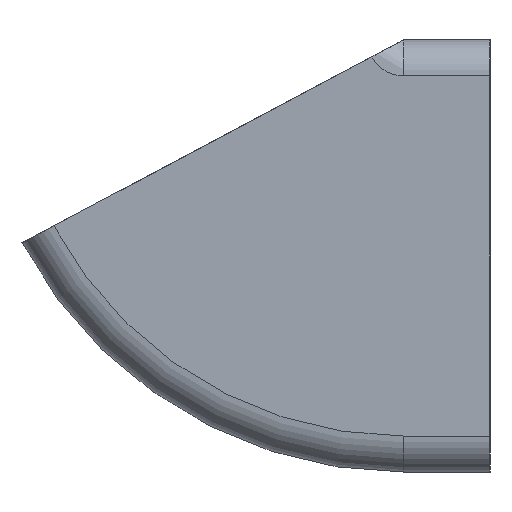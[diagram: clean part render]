
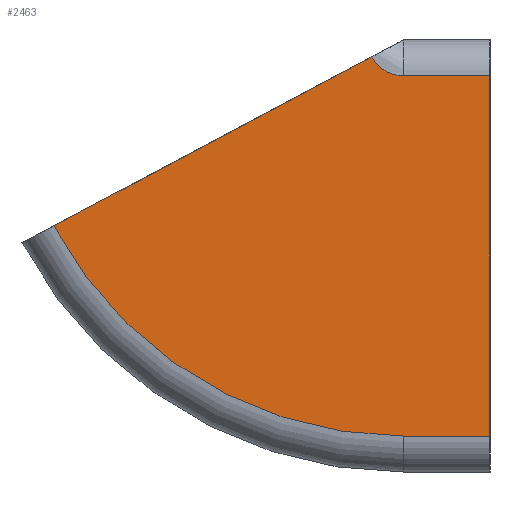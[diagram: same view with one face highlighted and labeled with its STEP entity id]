
A CAD part, left-side view. The second image highlights one B-rep face of the part: STEP entity #2463.
In plain terms, the highlighted planar face has unit normal (-1, 0, 0).
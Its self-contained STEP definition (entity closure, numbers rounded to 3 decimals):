
#295=FACE_OUTER_BOUND('',#481,.T.);
#481=EDGE_LOOP('',(#2206,#2207,#2208,#2209,#2210,#2211));
#543=LINE('',#3858,#711);
#664=LINE('',#4259,#832);
#666=LINE('',#4339,#834);
#669=LINE('',#4345,#837);
#711=VECTOR('',#3026,50.);
#832=VECTOR('',#3425,50.);
#834=VECTOR('',#3525,12.);
#837=VECTOR('',#3534,12.);
#921=CIRCLE('',#2597,55.);
#929=CIRCLE('',#2607,5.);
#1091=VERTEX_POINT('',#3856);
#1092=VERTEX_POINT('',#3857);
#1108=VERTEX_POINT('',#3904);
#1112=VERTEX_POINT('',#3937);
#1214=VERTEX_POINT('',#4256);
#1215=VERTEX_POINT('',#4258);
#1358=EDGE_CURVE('',#1091,#1092,#543,.T.);
#1384=EDGE_CURVE('',#1108,#1091,#921,.T.);
#1393=EDGE_CURVE('',#1112,#1092,#929,.T.);
#1549=EDGE_CURVE('',#1215,#1214,#664,.T.);
#1582=EDGE_CURVE('',#1108,#1215,#666,.T.);
#1585=EDGE_CURVE('',#1214,#1112,#669,.T.);
#2206=ORIENTED_EDGE('',*,*,#1585,.T.);
#2207=ORIENTED_EDGE('',*,*,#1393,.T.);
#2208=ORIENTED_EDGE('',*,*,#1358,.F.);
#2209=ORIENTED_EDGE('',*,*,#1384,.F.);
#2210=ORIENTED_EDGE('',*,*,#1582,.T.);
#2211=ORIENTED_EDGE('',*,*,#1549,.T.);
#2326=PLANE('',#2766);
#2463=ADVANCED_FACE('',(#295),#2326,.T.);
#2597=AXIS2_PLACEMENT_3D('',#3906,#3080,#3081);
#2607=AXIS2_PLACEMENT_3D('',#3939,#3101,#3102);
#2766=AXIS2_PLACEMENT_3D('',#4346,#3535,#3536);
#3026=DIRECTION('',(0.,-0.883,0.469));
#3080=DIRECTION('center_axis',(1.,0.,0.));
#3081=DIRECTION('ref_axis',(0.,0.,
-1.));
#3101=DIRECTION('center_axis',(1.,0.,0.));
#3102=DIRECTION('ref_axis',(0.,0.,
-1.));
#3425=DIRECTION('',(0.,0.,1.));
#3525=DIRECTION('',(0.,-1.,0.));
#3534=DIRECTION('',(0.,1.,0.));
#3535=DIRECTION('center_axis',(-1.,0.,0.));
#3536=DIRECTION('ref_axis',(0.,0.,1.));
#3856=CARTESIAN_POINT('',(-26.629,59.994,13.353));
#3857=CARTESIAN_POINT('',(-26.629,15.846,36.826));
#3858=CARTESIAN_POINT('',(-26.629,59.994,13.353));
#3904=CARTESIAN_POINT('',(-26.629,11.432,-15.826));
#3906=CARTESIAN_POINT('Origin',(-26.629,11.432,39.174));
#3937=CARTESIAN_POINT('',(-26.629,11.432,34.174));
#3939=CARTESIAN_POINT('Origin',(-26.629,11.432,39.174));
#4256=CARTESIAN_POINT('',(-26.629,-0.568,34.174));
#4258=CARTESIAN_POINT('',(-26.629,-0.568,-15.826));
#4259=CARTESIAN_POINT('',(-26.629,-0.568,21.674));
#4339=CARTESIAN_POINT('',(-26.629,5.432,-15.826));
#4345=CARTESIAN_POINT('',(-26.629,5.432,34.174));
#4346=CARTESIAN_POINT('Origin',(-26.629,5.432,-15.826));
